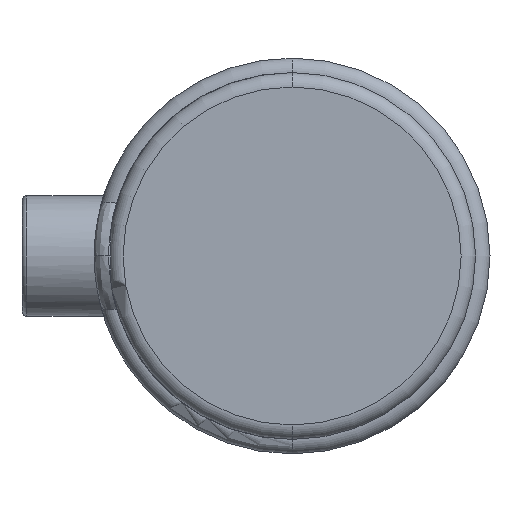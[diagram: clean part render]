
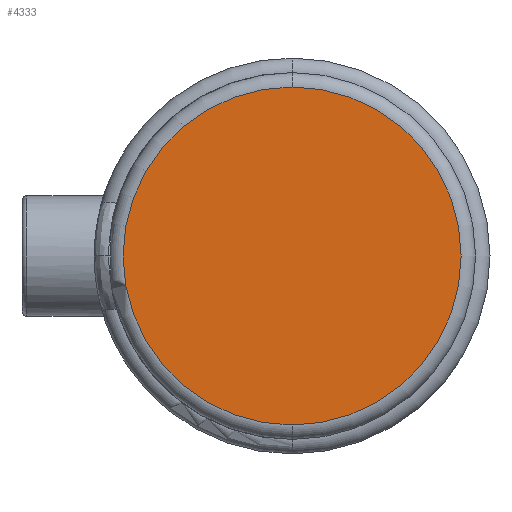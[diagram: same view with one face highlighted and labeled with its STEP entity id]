
A CAD part, left-side view. The second image highlights one B-rep face of the part: STEP entity #4333.
In plain terms, the highlighted planar face has unit normal (-1, 0, 0).
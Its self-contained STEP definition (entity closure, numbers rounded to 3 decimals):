
#32 = PLANE ( 'NONE',  #2585 ) ;
#539 = EDGE_CURVE ( 'NONE', #2114, #4597, #3700, .T. ) ;
#931 = CARTESIAN_POINT ( 'NONE',  ( 0., 0., 35.1 ) ) ;
#1726 = CARTESIAN_POINT ( 'NONE',  ( 0., 0., -35.1 ) ) ;
#1823 = DIRECTION ( 'NONE',  ( -1., 0., 0. ) ) ;
#1830 = CARTESIAN_POINT ( 'NONE',  ( 0., 0., 0. ) ) ;
#1845 = ORIENTED_EDGE ( 'NONE', *, *, #539, .T. ) ;
#1865 = DIRECTION ( 'NONE',  ( 0., 0., 1. ) ) ;
#2114 = VERTEX_POINT ( 'NONE', #931 ) ;
#2278 = DIRECTION ( 'NONE',  ( 0., 0., 1. ) ) ;
#2585 = AXIS2_PLACEMENT_3D ( 'NONE', #1830, #4936, #2278 ) ;
#2591 = DIRECTION ( 'NONE',  ( -1., 0., 0. ) ) ;
#3060 = AXIS2_PLACEMENT_3D ( 'NONE', #3674, #1823, #1865 ) ;
#3310 = EDGE_CURVE ( 'NONE', #4597, #2114, #3398, .T. ) ;
#3398 = CIRCLE ( 'NONE', #4860, 35.1 ) ;
#3674 = CARTESIAN_POINT ( 'NONE',  ( 0., 0., 0. ) ) ;
#3700 = CIRCLE ( 'NONE', #3060, 35.1 ) ;
#4333 = ADVANCED_FACE ( 'NONE', ( #4592 ), #32, .T. ) ;
#4592 = FACE_OUTER_BOUND ( 'NONE', #5539, .T. ) ;
#4597 = VERTEX_POINT ( 'NONE', #1726 ) ;
#4860 = AXIS2_PLACEMENT_3D ( 'NONE', #5277, #2591, #5736 ) ;
#4936 = DIRECTION ( 'NONE',  ( -1., 0., 0. ) ) ;
#5277 = CARTESIAN_POINT ( 'NONE',  ( 0., 0., 0. ) ) ;
#5539 = EDGE_LOOP ( 'NONE', ( #1845, #5722 ) ) ;
#5722 = ORIENTED_EDGE ( 'NONE', *, *, #3310, .T. ) ;
#5736 = DIRECTION ( 'NONE',  ( 0., 0., 1. ) ) ;
